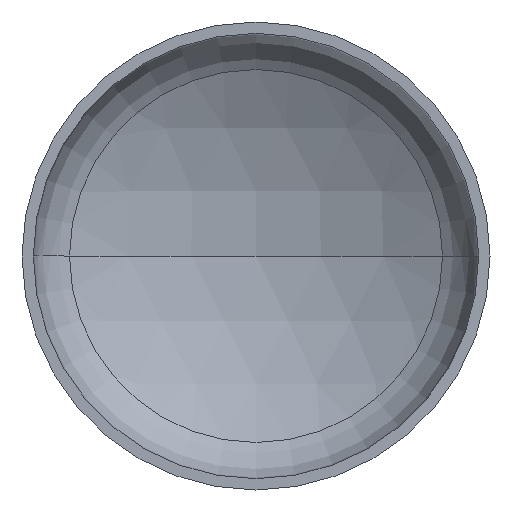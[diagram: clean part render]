
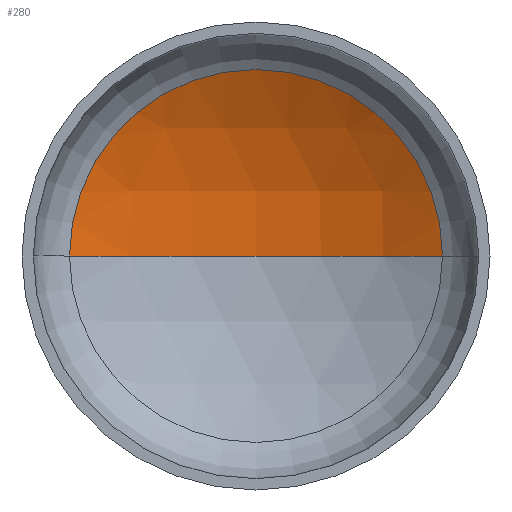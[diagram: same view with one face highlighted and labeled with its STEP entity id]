
A CAD part, front view. The second image highlights one B-rep face of the part: STEP entity #280.
In plain terms, the highlighted spherical face has radius 960 mm.
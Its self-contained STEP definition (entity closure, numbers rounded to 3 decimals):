
#15 = AXIS2_PLACEMENT_3D ( 'NONE', #109, #112, #354 ) ;
#16 = ORIENTED_EDGE ( 'NONE', *, *, #387, .F. ) ;
#17 = AXIS2_PLACEMENT_3D ( 'NONE', #286, #178, #376 ) ;
#23 = AXIS2_PLACEMENT_3D ( 'NONE', #232, #233, #39 ) ;
#29 = EDGE_LOOP ( 'NONE', ( #16, #133, #122 ) ) ;
#39 = DIRECTION ( 'NONE',  ( -1., 0., 0. ) ) ;
#68 = VERTEX_POINT ( 'NONE', #257 ) ;
#88 = SPHERICAL_SURFACE ( 'NONE', #23, 960. ) ;
#103 = CARTESIAN_POINT ( 'NONE',  ( 0., -582.033, 0. ) ) ;
#106 = VERTEX_POINT ( 'NONE', #205 ) ;
#109 = CARTESIAN_POINT ( 'NONE',  ( 0., -582.033, 0. ) ) ;
#112 = DIRECTION ( 'NONE',  ( 0., 0., -1. ) ) ;
#122 = ORIENTED_EDGE ( 'NONE', *, *, #323, .T. ) ;
#133 = ORIENTED_EDGE ( 'NONE', *, *, #330, .T. ) ;
#143 = VERTEX_POINT ( 'NONE', #198 ) ;
#175 = CIRCLE ( 'NONE', #15, 960. ) ;
#178 = DIRECTION ( 'NONE',  ( 0., -1., 0. ) ) ;
#198 = CARTESIAN_POINT ( 'NONE',  ( 0., 377.967, 0. ) ) ;
#205 = CARTESIAN_POINT ( 'NONE',  ( -478.142, 250.421, 0. ) ) ;
#218 = DIRECTION ( 'NONE',  ( 1., 0., 0. ) ) ;
#232 = CARTESIAN_POINT ( 'NONE',  ( 0., -582.033, 0. ) ) ;
#233 = DIRECTION ( 'NONE',  ( 0., 0., -1. ) ) ;
#249 = CIRCLE ( 'NONE', #17, 478.142 ) ;
#255 = FACE_OUTER_BOUND ( 'NONE', #29, .T. ) ;
#257 = CARTESIAN_POINT ( 'NONE',  ( 478.142, 250.421, 0. ) ) ;
#280 = ADVANCED_FACE ( 'NONE', ( #255 ), #88, .F. ) ;
#286 = CARTESIAN_POINT ( 'NONE',  ( 0., 250.421, 0. ) ) ;
#323 = EDGE_CURVE ( 'NONE', #68, #106, #249, .T. ) ;
#330 = EDGE_CURVE ( 'NONE', #143, #68, #175, .T. ) ;
#339 = AXIS2_PLACEMENT_3D ( 'NONE', #103, #360, #218 ) ;
#354 = DIRECTION ( 'NONE',  ( -1., 0., 0. ) ) ;
#360 = DIRECTION ( 'NONE',  ( 0., 0., 1. ) ) ;
#376 = DIRECTION ( 'NONE',  ( 1., 0., 0. ) ) ;
#387 = EDGE_CURVE ( 'NONE', #143, #106, #406, .T. ) ;
#406 = CIRCLE ( 'NONE', #339, 960. ) ;
